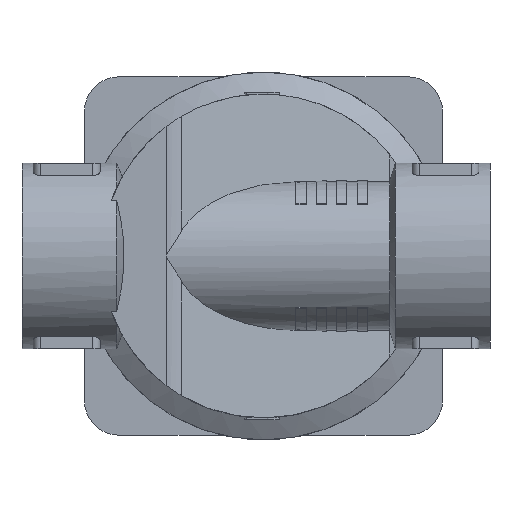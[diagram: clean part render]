
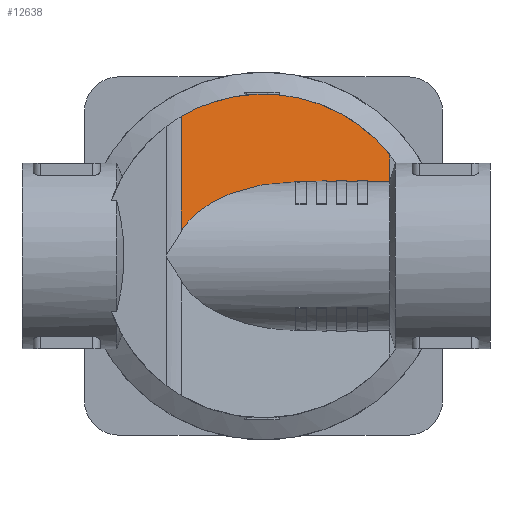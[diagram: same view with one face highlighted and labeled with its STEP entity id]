
A CAD part, front view. The second image highlights one B-rep face of the part: STEP entity #12638.
In plain terms, the highlighted planar face has unit normal (0.517, -0.856, 0).
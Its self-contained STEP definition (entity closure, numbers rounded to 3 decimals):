
#67=ELLIPSE('',#13230,50.947,43.6);
#75=ELLIPSE('',#13269,38.661,20.);
#114=B_SPLINE_CURVE_WITH_KNOTS('',3,(#17588,#17589,#17590,#17591),
 .UNSPECIFIED.,.F.,.F.,(4,4),(0.007,0.007),
 .UNSPECIFIED.);
#482=LINE('',#17797,#1606);
#483=LINE('',#17799,#1607);
#484=LINE('',#17800,#1608);
#1606=VECTOR('',#14692,1000.);
#1607=VECTOR('',#14693,1000.);
#1608=VECTOR('',#14694,1000.);
#3160=ORIENTED_EDGE('',*,*,#5921,.F.);
#3161=ORIENTED_EDGE('',*,*,#5922,.T.);
#3162=ORIENTED_EDGE('',*,*,#5825,.T.);
#3163=ORIENTED_EDGE('',*,*,#5736,.F.);
#3164=ORIENTED_EDGE('',*,*,#5923,.T.);
#3165=ORIENTED_EDGE('',*,*,#5802,.T.);
#5736=EDGE_CURVE('',#7182,#7183,#67,.F.);
#5802=EDGE_CURVE('',#7249,#7248,#75,.F.);
#5825=EDGE_CURVE('',#7270,#7183,#114,.T.);
#5921=EDGE_CURVE('',#7330,#7248,#482,.T.);
#5922=EDGE_CURVE('',#7330,#7270,#483,.T.);
#5923=EDGE_CURVE('',#7182,#7249,#484,.T.);
#7182=VERTEX_POINT('',#17351);
#7183=VERTEX_POINT('',#17353);
#7248=VERTEX_POINT('',#17528);
#7249=VERTEX_POINT('',#17530);
#7270=VERTEX_POINT('',#17592);
#7330=VERTEX_POINT('',#17798);
#8455=EDGE_LOOP('',(#3160,#3161,#3162,#3163,#3164,#3165));
#9040=FACE_BOUND('',#8455,.T.);
#9571=PLANE('',#13333);
#12638=ADVANCED_FACE('',(#9040),#9571,.T.);
#13230=AXIS2_PLACEMENT_3D('',#17352,#14383,#14384);
#13269=AXIS2_PLACEMENT_3D('',#17529,#14485,#14486);
#13333=AXIS2_PLACEMENT_3D('',#17796,#14690,#14691);
#14383=DIRECTION('',(0.517,-0.856,0.));
#14384=DIRECTION('',(0.856,0.517,0.));
#14485=DIRECTION('',(0.517,-0.856,0.));
#14486=DIRECTION('',(-0.856,-0.517,0.));
#14690=DIRECTION('',(0.517,-0.856,0.));
#14691=DIRECTION('',(0.856,0.517,0.));
#14692=DIRECTION('',(-0.856,-0.517,0.));
#14693=DIRECTION('',(0.,0.,1.));
#14694=DIRECTION('',(0.,0.,-1.));
#17351=CARTESIAN_POINT('',(-22.092,-18.846,37.589));
#17352=CARTESIAN_POINT('',(0.,-5.493,0.));
#17353=CARTESIAN_POINT('',(34.056,15.094,27.224));
#17528=CARTESIAN_POINT('',(9.086,0.,20.));
#17529=CARTESIAN_POINT('',(9.086,0.,0.));
#17530=CARTESIAN_POINT('',(-22.092,-18.846,6.694));
#17588=CARTESIAN_POINT('',(34.057,15.094,27.224));
#17589=CARTESIAN_POINT('',(34.057,15.094,27.224));
#17590=CARTESIAN_POINT('',(34.056,15.094,27.224));
#17591=CARTESIAN_POINT('',(34.056,15.094,27.224));
#17592=CARTESIAN_POINT('',(34.057,15.094,27.224));
#17796=CARTESIAN_POINT('',(43.,20.5,99.));
#17797=CARTESIAN_POINT('',(43.,20.5,20.));
#17798=CARTESIAN_POINT('',(34.057,15.094,20.));
#17799=CARTESIAN_POINT('',(34.057,15.094,99.));
#17800=CARTESIAN_POINT('',(-22.092,-18.846,99.));
